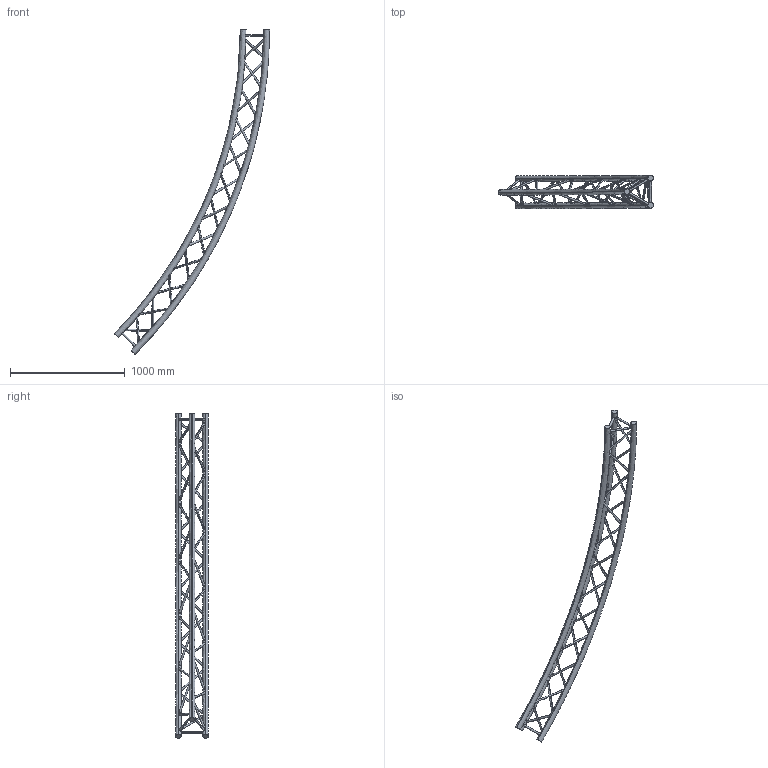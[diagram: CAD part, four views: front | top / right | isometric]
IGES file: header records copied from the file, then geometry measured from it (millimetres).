
Start section: SolidWorks IGES file using analytic representation for surfaces
Global section: file name: K:\BIBLIO\asd_biblio\SX290\Cercles\SXC29PI\SXC29800PI\SXC29800PI.IGS; native system: SolidWorks 2009; preprocessor: SolidWorks 2009; author: des3; date: 091021.110153; units: millimetre
Bounding box: 1352.06 x 287 x 2828.43 mm (x, y, z)
Surface area: 1978387.7 mm2 (no closed solid volume)
Topology: 0 solids, 0 shells, 96 faces, 6834 edges, 6834 vertices
Faces by surface type: revolution 84, bspline 12
